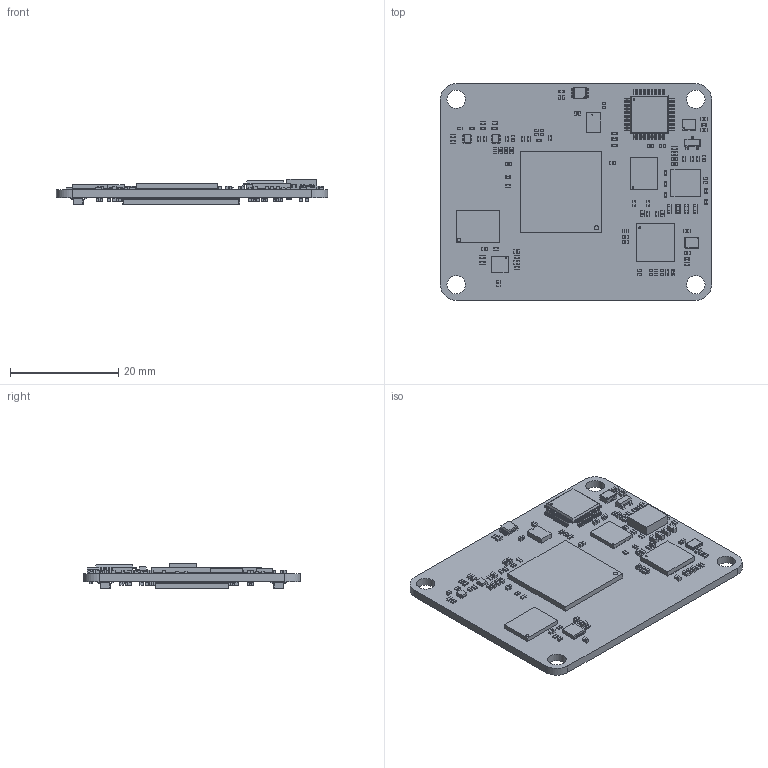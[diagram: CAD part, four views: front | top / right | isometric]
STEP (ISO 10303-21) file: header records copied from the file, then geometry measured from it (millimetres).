
FILE_DESCRIPTION(('KiCad electronic assembly'),'2;1');
FILE_NAME('xlm2102.step','2025-10-01T15:20:51',('Pcbnew'),('Kicad'), 'Open CASCADE STEP processor 7.6','KiCad to STEP converter','Unknown' );
FILE_SCHEMA(('AUTOMOTIVE_DESIGN { 1 0 10303 214 1 1 1 1 }'));
Length unit declared in the file: millimetre
Products named in the file (1448): xlm2102 1; TOSHIBA_SSM6N35AFE_LF_ES6; Lead1; Lead6; Lead2; Lead3; Lead5; Lead4; Mold; R_0402_1005Metric; Solid1; Solid2; Solid3; LED_XZxx68x-2; C_0402_1005Metric; BGA-324_15.0x15.0mm_Layout18x18_P0.8mm_Ball0.5mm_Pad0.4mm_NSMD; FB_0402_1005Metric; MPS_MPM54322; xlm2102 1.13.1; SOT23-3; C_0603_1608Metric; NEXPERIA_SOT763-1_74AXP4T245BQX_NEX; WIZNET_48LQFP_W5500_WIZ; FTDI_DFN-12_FTD; WINBOND_W25Q128JVPIQ; INFINEON-BGA-24-801; xlm2102 1.63.1; xlm2102 1.63.2; xlm2102 1.63.3; xlm2102 1.63.4; xlm2102 1.63.5; xlm2102 1.63.6; xlm2102 1.63.7; xlm2102 1.63.8; xlm2102 1.63.9; xlm2102 1.63.10; xlm2102 1.63.11; xlm2102 1.63.12; xlm2102 1.63.13; xlm2102 1.63.14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
Assembly tree (1588 placements, depth 3):
  xlm2102 1
    TOSHIBA_SSM6N35AFE_LF_ES6  x2
      Lead1
      Lead6
      Lead2
      Lead3
      Lead5
      Lead4
      Mold
    R_0402_1005Metric  x48
      Solid1
      Solid2
      Solid2
      Solid3
    LED_XZxx68x-2  x3
    C_0402_1005Metric  x80
    BGA-324_15.0x15.0mm_Layout18x18_P0.8mm_Ball0.5mm_Pad0.4mm_NSMD
    FB_0402_1005Metric  x9
    MPS_MPM54322
      xlm2102 1.13.1
    SOT23-3
    C_0603_1608Metric  x4
    NEXPERIA_SOT763-1_74AXP4T245BQX_NEX
    WIZNET_48LQFP_W5500_WIZ
    FTDI_DFN-12_FTD
    WINBOND_W25Q128JVPIQ
    INFINEON-BGA-24-801
      xlm2102 1.63.1
      xlm2102 1.63.2
      xlm2102 1.63.3
      xlm2102 1.63.4
      xlm2102 1.63.5
      xlm2102 1.63.6
      xlm2102 1.63.7
      xlm2102 1.63.8
      xlm2102 1.63.9
      xlm2102 1.63.10
      xlm2102 1.63.11
      xlm2102 1.63.12
      xlm2102 1.63.13
      xlm2102 1.63.14
      xlm2102 1.63.15
      xlm2102 1.63.16
      xlm2102 1.63.17
      xlm2102 1.63.18
      xlm2102 1.63.19
      xlm2102 1.63.20
      xlm2102 1.63.21
      xlm2102 1.63.22
      xlm2102 1.63.23
      xlm2102 1.63.24
      xlm2102 1.63.25
      xlm2102 1.63.26
    MICROCHIP_VQFN48_MAC_MCH
    ECS-2033-500-BN
    ECS-250-18-36-AGM-TR
    NEXPERIA_VSSOP8_SOT765-1
    HIROSE_DF40C-60DP
      DF40C-40DP-0.4V.1
      DF40C-40DP-0.4V.1
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Bounding box: 50 x 40 x 4.62 mm (x, y, z)
Volume: 3485 mm3; surface area: 6927.3 mm2
Topology: 782 solids, 3493 shells, 10530 faces, 34744 edges, 28176 vertices
Faces by surface type: bspline 5456, plane 4582, cylinder 392, sphere 100
Full cylindrical faces by diameter (mm): 0.119 x1, 0.13 x1, 0.15 x1, 0.28 x1, 0.351 x1, 0.8 x1, 3.4 x4
Entity records: 198563 total; most frequent: CARTESIAN_POINT 68510, ORIENTED_EDGE 23648, EDGE_CURVE 16154, VERTEX_POINT 13544, DIRECTION 12987, B_SPLINE_CURVE_WITH_KNOTS 8849, FACE_BOUND 4580, EDGE_LOOP 4580
